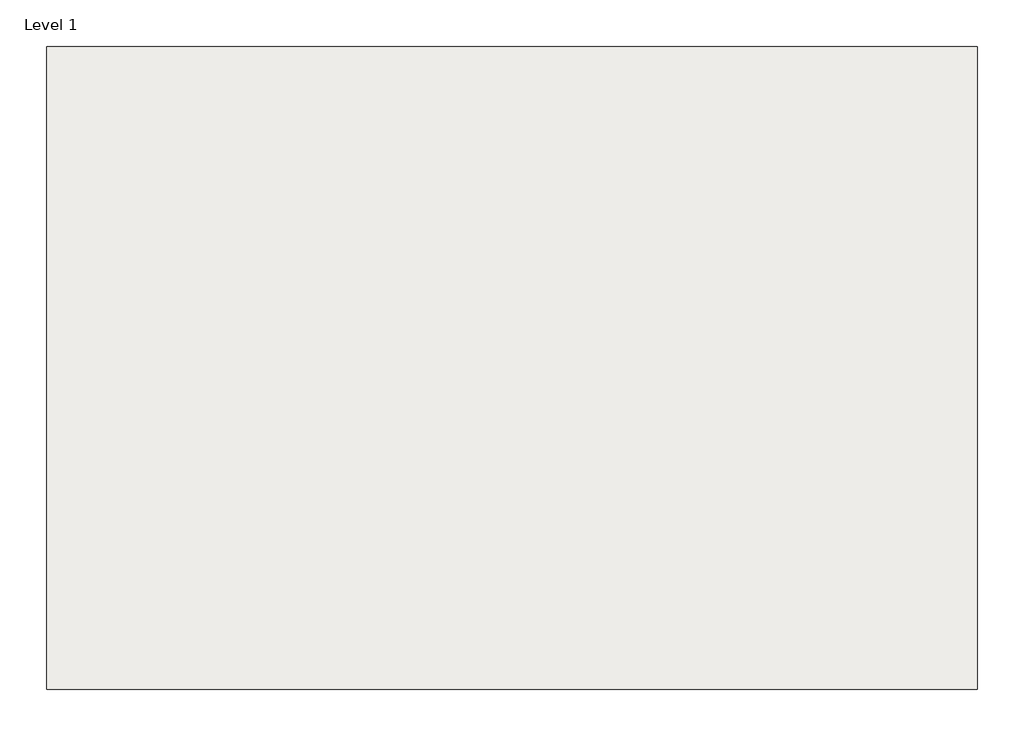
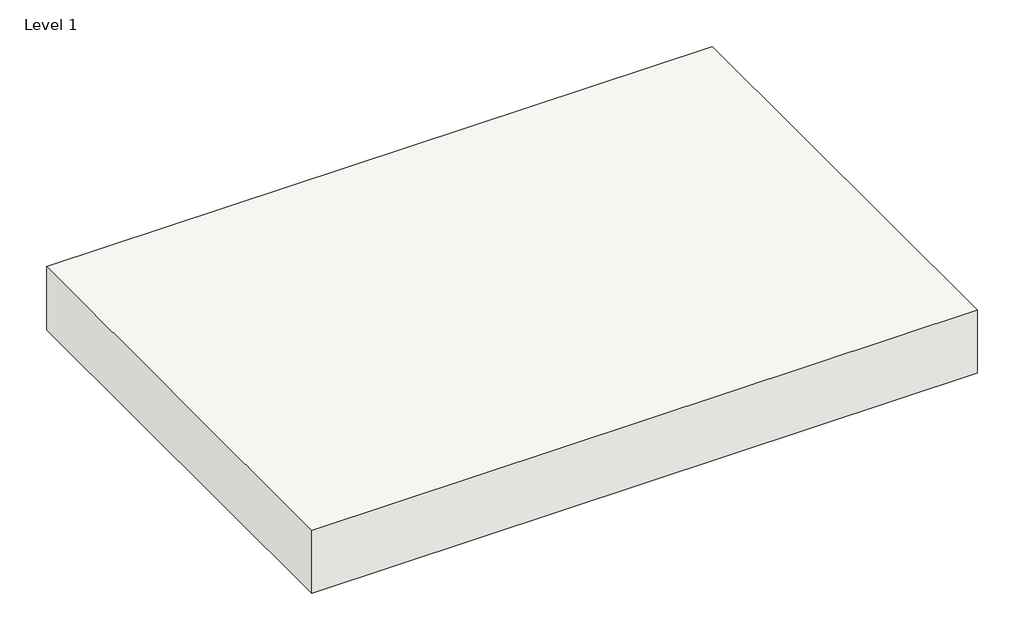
# One storey: 1 slab.
"""IFC4 building model written with IfcOpenShell, lengths in millimetres."""

from ifc_helpers import new_model, si_unit, frame, origin, place, context, project, spatial, polyline, outline, extrude, element, save

model = new_model("IFC4")

# Units and contexts
model_context = context("Model", 3, world=origin())
ifc_project = project(units=[si_unit("LENGTHUNIT", "METRE", prefix="MILLI")], contexts=[model_context])

# Site, building, storey
site = spatial("IfcSite", under=ifc_project)
building = spatial("IfcBuilding", under=site)
storey = spatial("IfcBuildingStorey", under=building, Name="Level 1", Elevation=0.0)

# Slab
placement = place(None, origin())
element("IfcSlab", 1, ObjectType="Generic - 12\"", at=placement, inside=storey, context=model_context, shape_type="SweptSolid", body=[
    extrude(outline(polyline([(-15968.4242006, 15237.2598675), (-15968.4242006, 13137.2598675), (-19008.4242006, 13137.2598675), (-19008.4242006, 15237.2598675), (-15968.4242006, 15237.2598675)])), frame((0.0, 0.0, -304.8), z_axis=(0.0, 0.0, 1.0), x_axis=(1.0, 0.0, 0.0)), (0.0, 0.0, 1.0), 304.8),
])

save(model, "model.ifc")
